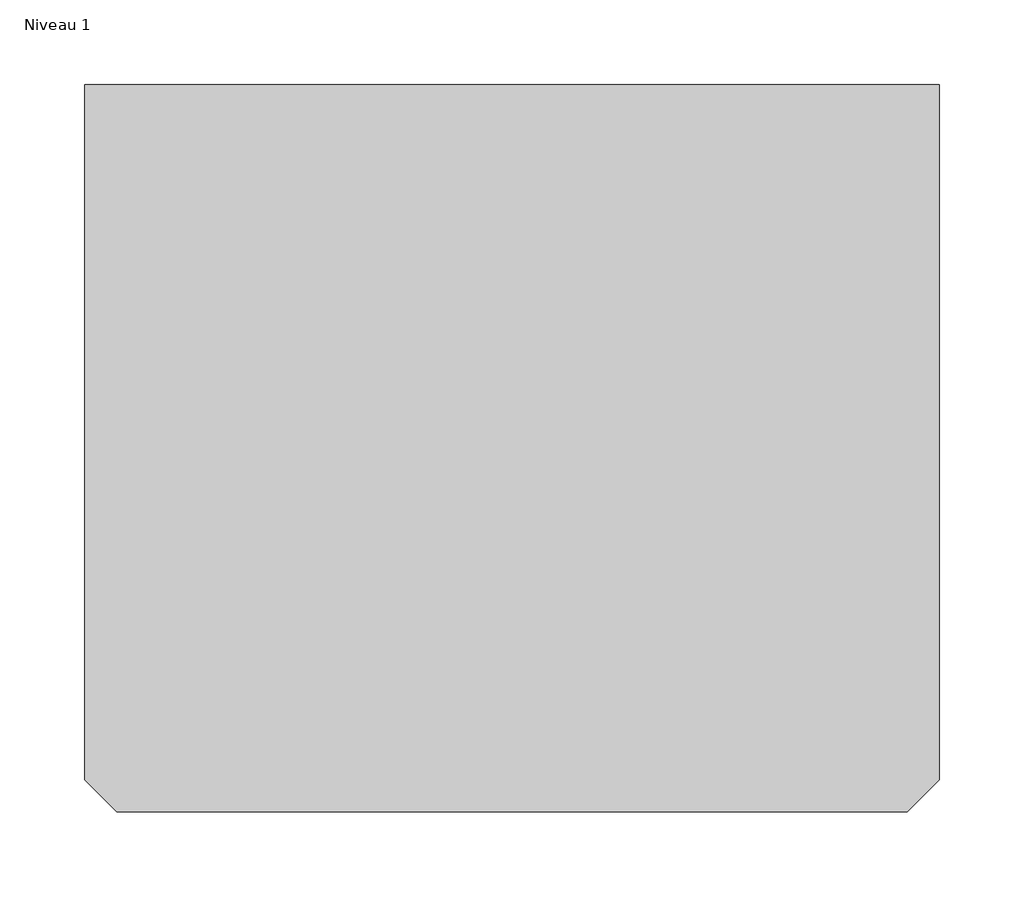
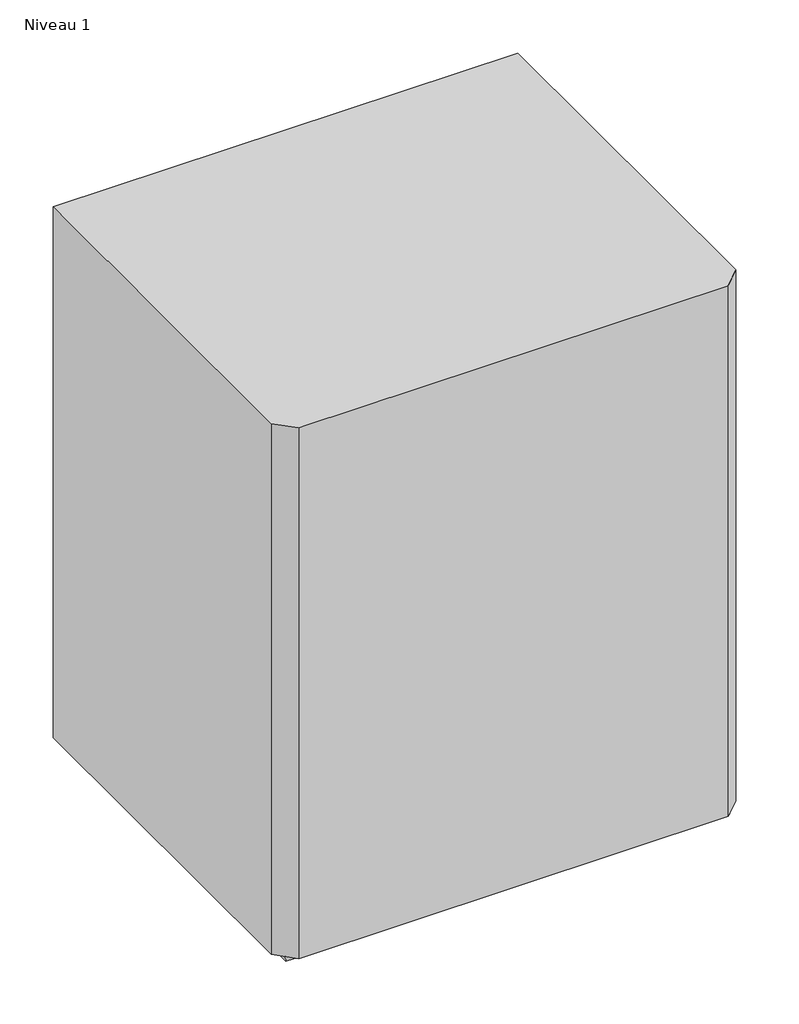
# One storey: 1 proxy.
"""IFC4 building model written with IfcOpenShell, lengths in millimetres."""

from ifc_helpers import new_model, si_unit, origin, place, context, project, spatial, transform, mapped, element, save
from components import electrical_equipment_efc7b7c8

model = new_model("IFC4")

# Units and contexts
model_context = context("Model", 3, world=origin())
ifc_project = project(units=[si_unit("LENGTHUNIT", "METRE", prefix="MILLI")], contexts=[model_context])

# Site, building, storey
site = spatial("IfcSite", under=ifc_project)
building = spatial("IfcBuilding", under=site)
storey = spatial("IfcBuildingStorey", under=building, Name="Niveau 1", Elevation=0.0)

# Proxy
placement = place(None, origin())
electrical_equipment_shape = electrical_equipment_efc7b7c8(model_context)
element("IfcBuildingElementProxy", 1, Name="COFFRET BATTERIE ABM 1G : COFFRET BATTERIE ABM 1G", ObjectType="COFFRET BATTERIE ABM 1G : COFFRET BATTERIE ABM 1G", at=placement, inside=storey, context=model_context, shape_type="MappedRepresentation", body=[
    mapped(electrical_equipment_shape, transform((-8638.3521894, 7107.3296004, 0.0), x_axis=(1.0, 0.0, 0.0), y_axis=(0.0, 1.0, 0.0), z_axis=(0.0, 0.0, 1.0))),
])

save(model, "model.ifc")
